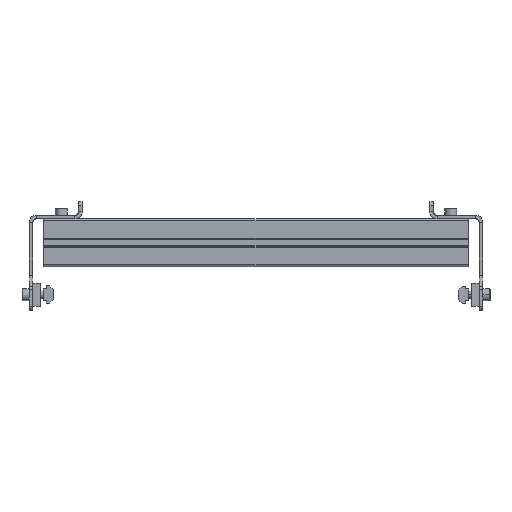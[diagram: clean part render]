
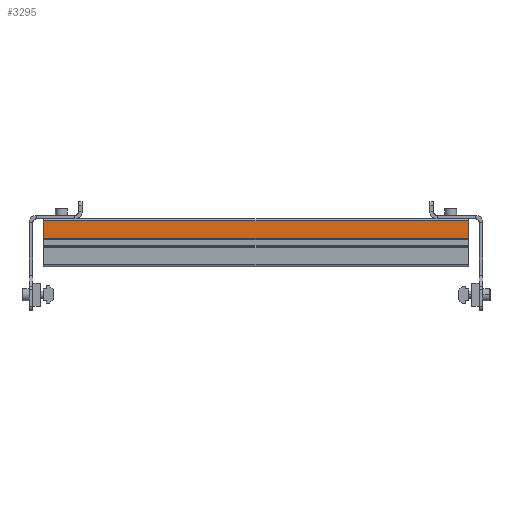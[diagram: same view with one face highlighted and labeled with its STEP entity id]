
A CAD part, top view. The second image highlights one B-rep face of the part: STEP entity #3295.
In plain terms, the highlighted planar face has unit normal (0, 0, 1) as drawn and (0, 1, 0) by its records, which use the part's own axes.
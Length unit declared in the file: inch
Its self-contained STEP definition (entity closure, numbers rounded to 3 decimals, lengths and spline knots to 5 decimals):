
#73 = EDGE_LOOP ( 'NONE', ( #4734, #3122, #5964, #5661 ) ) ;
#320 = CARTESIAN_POINT ( 'NONE',  ( -0.725, 0.441, 75. ) ) ;
#592 = PLANE ( 'NONE',  #5772 ) ;
#764 = VERTEX_POINT ( 'NONE', #7807 ) ;
#916 = VECTOR ( 'NONE', #6136, 39.37008 ) ;
#1342 = CARTESIAN_POINT ( 'NONE',  ( -0.725, 0.441, -6.98 ) ) ;
#1593 = LINE ( 'NONE', #7988, #916 ) ;
#2099 = LINE ( 'NONE', #4654, #4832 ) ;
#2229 = EDGE_CURVE ( 'NONE', #2630, #764, #4807, .T. ) ;
#2507 = VERTEX_POINT ( 'NONE', #3784 ) ;
#2549 = DIRECTION ( 'NONE',  ( 0., 0., -1. ) ) ;
#2630 = VERTEX_POINT ( 'NONE', #1342 ) ;
#2773 = VERTEX_POINT ( 'NONE', #6223 ) ;
#3122 = ORIENTED_EDGE ( 'NONE', *, *, #5670, .F. ) ;
#3295 = ADVANCED_FACE ( 'NONE', ( #4383 ), #592, .F. ) ;
#3734 = VECTOR ( 'NONE', #8204, 39.37008 ) ;
#3784 = CARTESIAN_POINT ( 'NONE',  ( -0.14758, 0.441, 6.98 ) ) ;
#4171 = DIRECTION ( 'NONE',  ( 0., 0., 1. ) ) ;
#4383 = FACE_OUTER_BOUND ( 'NONE', #73, .T. ) ;
#4654 = CARTESIAN_POINT ( 'NONE',  ( 0.7875, 0.441, 6.98 ) ) ;
#4734 = ORIENTED_EDGE ( 'NONE', *, *, #8118, .F. ) ;
#4807 = LINE ( 'NONE', #320, #7782 ) ;
#4832 = VECTOR ( 'NONE', #7243, 39.37008 ) ;
#5648 = LINE ( 'NONE', #8290, #3734 ) ;
#5661 = ORIENTED_EDGE ( 'NONE', *, *, #6292, .F. ) ;
#5670 = EDGE_CURVE ( 'NONE', #2630, #2773, #1593, .T. ) ;
#5701 = CARTESIAN_POINT ( 'NONE',  ( -0.7875, 0.441, 75. ) ) ;
#5772 = AXIS2_PLACEMENT_3D ( 'NONE', #5701, #8340, #2549 ) ;
#5964 = ORIENTED_EDGE ( 'NONE', *, *, #2229, .T. ) ;
#6136 = DIRECTION ( 'NONE',  ( 1., 0., 0. ) ) ;
#6223 = CARTESIAN_POINT ( 'NONE',  ( -0.14758, 0.441, -6.98 ) ) ;
#6292 = EDGE_CURVE ( 'NONE', #2507, #764, #2099, .T. ) ;
#7243 = DIRECTION ( 'NONE',  ( -1., 0., 0. ) ) ;
#7782 = VECTOR ( 'NONE', #4171, 39.37008 ) ;
#7807 = CARTESIAN_POINT ( 'NONE',  ( -0.725, 0.441, 6.98 ) ) ;
#7988 = CARTESIAN_POINT ( 'NONE',  ( 0.7875, 0.441, -6.98 ) ) ;
#8118 = EDGE_CURVE ( 'NONE', #2773, #2507, #5648, .T. ) ;
#8204 = DIRECTION ( 'NONE',  ( 0., 0., 1. ) ) ;
#8290 = CARTESIAN_POINT ( 'NONE',  ( -0.14758, 0.441, -75. ) ) ;
#8340 = DIRECTION ( 'NONE',  ( 0., -1., 0. ) ) ;
